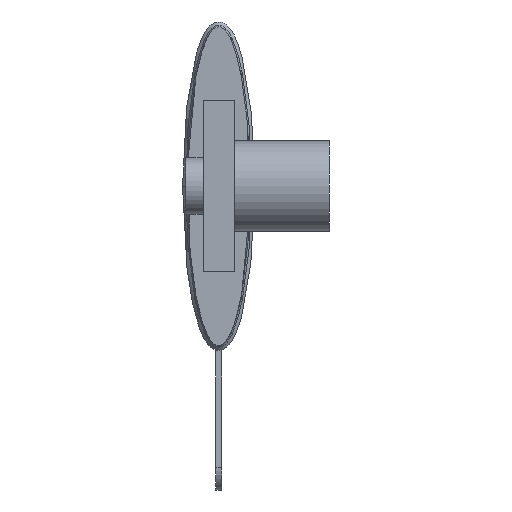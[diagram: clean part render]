
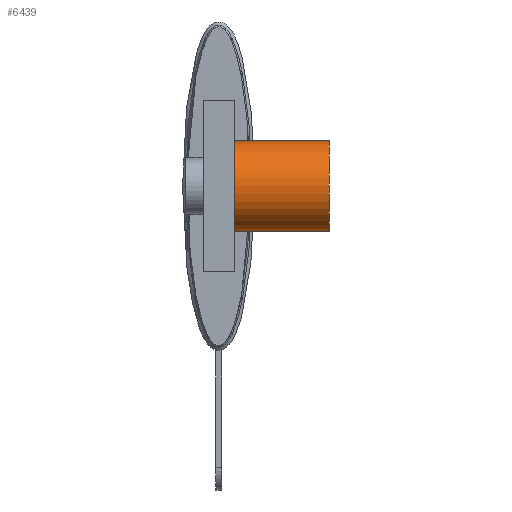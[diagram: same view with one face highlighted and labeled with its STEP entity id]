
A CAD part, left-side view. The second image highlights one B-rep face of the part: STEP entity #6439.
In plain terms, the highlighted cylindrical face has radius 3.97 mm (diameter 7.94 mm), a partial arc.
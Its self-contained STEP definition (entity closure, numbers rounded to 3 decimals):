
#193 = CIRCLE ( 'NONE', #200, 3.97 ) ;
#200 = AXIS2_PLACEMENT_3D ( 'NONE', #5207, #5205, #5202 ) ;
#471 = VECTOR ( 'NONE', #3776, 1000. ) ;
#747 = DIRECTION ( 'NONE',  ( 0., 0., 1. ) ) ;
#784 = CARTESIAN_POINT ( 'NONE',  ( -85.725, -31.375, 0. ) ) ;
#979 = VECTOR ( 'NONE', #6363, 1000. ) ;
#1106 = VERTEX_POINT ( 'NONE', #1737 ) ;
#1309 = DIRECTION ( 'NONE',  ( 0., 0., 1. ) ) ;
#1314 = ORIENTED_EDGE ( 'NONE', *, *, #2874, .F. ) ;
#1316 = DIRECTION ( 'NONE',  ( 0., -1., 0. ) ) ;
#1322 = CARTESIAN_POINT ( 'NONE',  ( -85.725, -1.375, 0. ) ) ;
#1323 = ORIENTED_EDGE ( 'NONE', *, *, #2653, .T. ) ;
#1327 = ORIENTED_EDGE ( 'NONE', *, *, #5524, .T. ) ;
#1330 = ORIENTED_EDGE ( 'NONE', *, *, #5099, .T. ) ;
#1530 = AXIS2_PLACEMENT_3D ( 'NONE', #784, #2901, #747 ) ;
#1573 = EDGE_LOOP ( 'NONE', ( #1314, #1323, #1327, #1330 ) ) ;
#1737 = CARTESIAN_POINT ( 'NONE',  ( -85.725, -9.735, -3.97 ) ) ;
#1921 = CYLINDRICAL_SURFACE ( 'NONE', #1530, 3.97 ) ;
#2028 = CARTESIAN_POINT ( 'NONE',  ( -85.725, -31.375, 3.97 ) ) ;
#2653 = EDGE_CURVE ( 'NONE', #1106, #4453, #193, .T. ) ;
#2855 = CARTESIAN_POINT ( 'NONE',  ( -85.725, -9.735, 3.97 ) ) ;
#2874 = EDGE_CURVE ( 'NONE', #1106, #3942, #3782, .T. ) ;
#2880 = CARTESIAN_POINT ( 'NONE',  ( -85.725, -1.375, 3.97 ) ) ;
#2901 = DIRECTION ( 'NONE',  ( 0., 1., 0. ) ) ;
#3776 = DIRECTION ( 'NONE',  ( 0., 1., 0. ) ) ;
#3777 = CARTESIAN_POINT ( 'NONE',  ( -85.725, -31.375, -3.97 ) ) ;
#3782 = LINE ( 'NONE', #3777, #471 ) ;
#3942 = VERTEX_POINT ( 'NONE', #4040 ) ;
#4040 = CARTESIAN_POINT ( 'NONE',  ( -85.725, -1.375, -3.97 ) ) ;
#4443 = VERTEX_POINT ( 'NONE', #2880 ) ;
#4453 = VERTEX_POINT ( 'NONE', #2855 ) ;
#5099 = EDGE_CURVE ( 'NONE', #4443, #3942, #6380, .T. ) ;
#5202 = DIRECTION ( 'NONE',  ( 0., 0., 1. ) ) ;
#5205 = DIRECTION ( 'NONE',  ( 0., 1., 0. ) ) ;
#5207 = CARTESIAN_POINT ( 'NONE',  ( -85.725, -9.735, 0. ) ) ;
#5524 = EDGE_CURVE ( 'NONE', #4453, #4443, #5773, .T. ) ;
#5771 = FACE_OUTER_BOUND ( 'NONE', #1573, .T. ) ;
#5773 = LINE ( 'NONE', #2028, #979 ) ;
#6347 = AXIS2_PLACEMENT_3D ( 'NONE', #1322, #1316, #1309 ) ;
#6363 = DIRECTION ( 'NONE',  ( 0., 1., 0. ) ) ;
#6380 = CIRCLE ( 'NONE', #6347, 3.97 ) ;
#6439 = ADVANCED_FACE ( 'NONE', ( #5771 ), #1921, .T. ) ;
